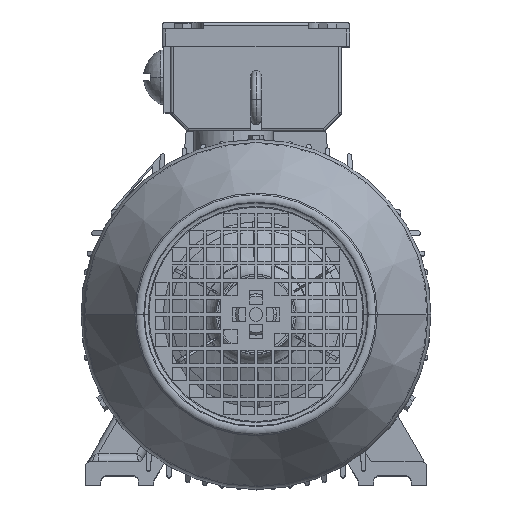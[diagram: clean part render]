
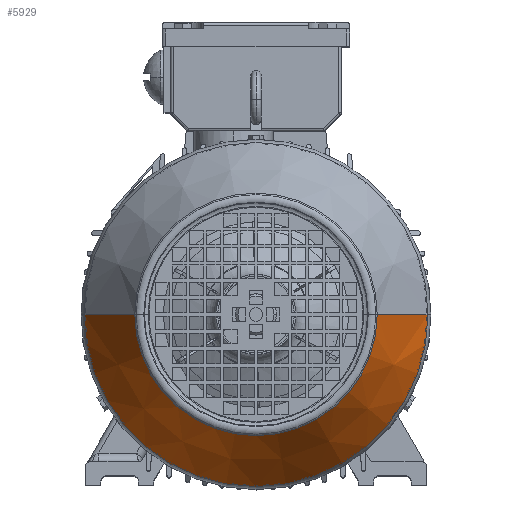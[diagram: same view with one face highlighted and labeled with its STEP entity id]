
A CAD part, top view. The second image highlights one B-rep face of the part: STEP entity #5929.
In plain terms, the highlighted conical face has half-angle 30 degrees and reference radius 100.958 mm.
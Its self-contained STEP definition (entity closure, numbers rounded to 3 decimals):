
#3240 = ORIENTED_EDGE ( 'NONE', *, *, #26172, .F. ) ;
#3241 = ORIENTED_EDGE ( 'NONE', *, *, #5040, .T. ) ;
#3242 = ORIENTED_EDGE ( 'NONE', *, *, #26174, .T. ) ;
#3243 = ORIENTED_EDGE ( 'NONE', *, *, #5111, .F. ) ;
#5040 = EDGE_CURVE ( 'NONE', #38329, #38315, #33995, .T. ) ;
#5111 = EDGE_CURVE ( 'NONE', #38301, #38327, #34134, .T. ) ;
#5929 = ADVANCED_FACE ( 'NONE', ( #42098 ), #42102, .T. ) ;
#11051 = CARTESIAN_POINT ( 'NONE',  ( 100.958, 0., 150.379 ) ) ;
#11062 = CARTESIAN_POINT ( 'NONE',  ( -71.155, 0., 202. ) ) ;
#11074 = CARTESIAN_POINT ( 'NONE',  ( -100.958, 0., 150.379 ) ) ;
#11076 = CARTESIAN_POINT ( 'NONE',  ( 71.155, 0., 202. ) ) ;
#14297 = LINE ( 'NONE', #16040, #14300 ) ;
#14299 = LINE ( 'NONE', #16043, #14303 ) ;
#14300 = VECTOR ( 'NONE', #16042, 1000. ) ;
#14303 = VECTOR ( 'NONE', #16041, 1000. ) ;
#16040 = CARTESIAN_POINT ( 'NONE',  ( 100.958, 0., 150.379 ) ) ;
#16041 = DIRECTION ( 'NONE',  ( -0.5, 0., -0.866 ) ) ;
#16042 = DIRECTION ( 'NONE',  ( 0.5, 0., -0.866 ) ) ;
#16043 = CARTESIAN_POINT ( 'NONE',  ( -100.958, 0., 150.379 ) ) ;
#24120 = EDGE_LOOP ( 'NONE', ( #3240, #3241, #3242, #3243 ) ) ;
#26172 = EDGE_CURVE ( 'NONE', #38329, #38301, #14297, .T. ) ;
#26174 = EDGE_CURVE ( 'NONE', #38315, #38327, #14299, .T. ) ;
#31757 = AXIS2_PLACEMENT_3D ( 'NONE', #40498, #40499, #40500 ) ;
#31762 = AXIS2_PLACEMENT_3D ( 'NONE', #40650, #40651, #40652 ) ;
#31768 = AXIS2_PLACEMENT_3D ( 'NONE', #41081, #41078, #41072 ) ;
#33995 = CIRCLE ( 'NONE', #31757, 71.155 ) ;
#34134 = CIRCLE ( 'NONE', #31762, 100.958 ) ;
#38301 = VERTEX_POINT ( 'NONE', #11051 ) ;
#38315 = VERTEX_POINT ( 'NONE', #11062 ) ;
#38327 = VERTEX_POINT ( 'NONE', #11074 ) ;
#38329 = VERTEX_POINT ( 'NONE', #11076 ) ;
#40498 = CARTESIAN_POINT ( 'NONE',  ( 0., 0., 202. ) ) ;
#40499 = DIRECTION ( 'NONE',  ( 0., 0., -1. ) ) ;
#40500 = DIRECTION ( 'NONE',  ( -1., 0., 0. ) ) ;
#40650 = CARTESIAN_POINT ( 'NONE',  ( 0., 0., 150.379 ) ) ;
#40651 = DIRECTION ( 'NONE',  ( 0., 0., -1. ) ) ;
#40652 = DIRECTION ( 'NONE',  ( -1., 0., 0. ) ) ;
#41072 = DIRECTION ( 'NONE',  ( -1., 0., 0. ) ) ;
#41078 = DIRECTION ( 'NONE',  ( 0., 0., -1. ) ) ;
#41081 = CARTESIAN_POINT ( 'NONE',  ( 0., 0., 150.379 ) ) ;
#42098 = FACE_OUTER_BOUND ( 'NONE', #24120, .T. ) ;
#42102 = CONICAL_SURFACE ( 'NONE', #31768, 100.958, 0.524 ) ;
